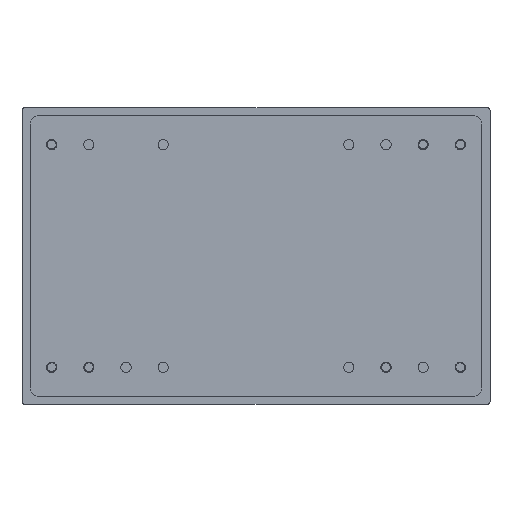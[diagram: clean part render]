
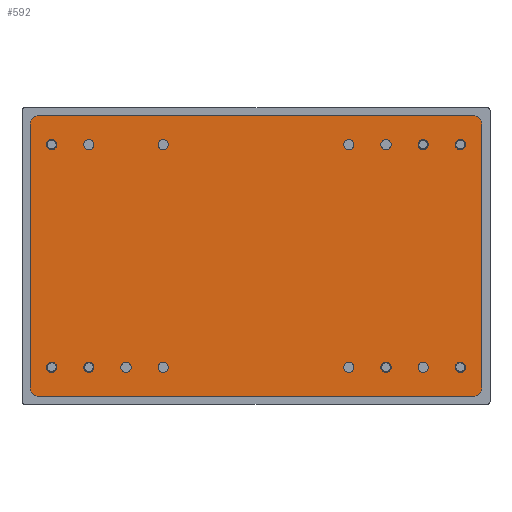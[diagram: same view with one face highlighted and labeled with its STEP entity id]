
A CAD part, top view. The second image highlights one B-rep face of the part: STEP entity #592.
In plain terms, the highlighted planar face has unit normal (0, 0, 1).
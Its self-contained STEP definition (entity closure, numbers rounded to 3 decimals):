
#34=FACE_BOUND('',#113,.T.);
#35=FACE_BOUND('',#114,.T.);
#36=FACE_BOUND('',#115,.T.);
#37=FACE_BOUND('',#116,.T.);
#38=FACE_BOUND('',#117,.T.);
#39=FACE_BOUND('',#118,.T.);
#40=FACE_BOUND('',#119,.T.);
#41=FACE_BOUND('',#120,.T.);
#42=FACE_BOUND('',#121,.T.);
#43=FACE_BOUND('',#122,.T.);
#44=FACE_BOUND('',#123,.T.);
#45=FACE_BOUND('',#124,.T.);
#46=FACE_BOUND('',#125,.T.);
#47=FACE_BOUND('',#126,.T.);
#48=FACE_BOUND('',#127,.T.);
#64=FACE_OUTER_BOUND('',#112,.T.);
#112=EDGE_LOOP('',(#417,#418,#419,#420,#421,#422,#423,#424));
#113=EDGE_LOOP('',(#425));
#114=EDGE_LOOP('',(#426));
#115=EDGE_LOOP('',(#427));
#116=EDGE_LOOP('',(#428));
#117=EDGE_LOOP('',(#429));
#118=EDGE_LOOP('',(#430));
#119=EDGE_LOOP('',(#431));
#120=EDGE_LOOP('',(#432));
#121=EDGE_LOOP('',(#433));
#122=EDGE_LOOP('',(#434));
#123=EDGE_LOOP('',(#435));
#124=EDGE_LOOP('',(#436));
#125=EDGE_LOOP('',(#437));
#126=EDGE_LOOP('',(#438));
#127=EDGE_LOOP('',(#439));
#190=CIRCLE('',#643,0.6);
#191=CIRCLE('',#644,0.6);
#192=CIRCLE('',#645,0.6);
#193=CIRCLE('',#646,0.6);
#194=CIRCLE('',#647,0.35);
#195=CIRCLE('',#648,0.35);
#196=CIRCLE('',#649,0.35);
#197=CIRCLE('',#650,0.35);
#198=CIRCLE('',#651,0.35);
#199=CIRCLE('',#652,0.35);
#200=CIRCLE('',#653,0.35);
#201=CIRCLE('',#654,0.35);
#202=CIRCLE('',#655,0.35);
#203=CIRCLE('',#656,0.35);
#204=CIRCLE('',#657,0.35);
#205=CIRCLE('',#658,0.35);
#206=CIRCLE('',#659,0.35);
#207=CIRCLE('',#660,0.35);
#208=CIRCLE('',#661,0.35);
#239=LINE('',#963,#263);
#240=LINE('',#967,#264);
#241=LINE('',#971,#265);
#242=LINE('',#975,#266);
#263=VECTOR('',#743,29.7);
#264=VECTOR('',#746,18.);
#265=VECTOR('',#749,29.7);
#266=VECTOR('',#752,18.);
#287=VERTEX_POINT('',#961);
#288=VERTEX_POINT('',#962);
#289=VERTEX_POINT('',#964);
#290=VERTEX_POINT('',#966);
#291=VERTEX_POINT('',#968);
#292=VERTEX_POINT('',#970);
#293=VERTEX_POINT('',#972);
#294=VERTEX_POINT('',#974);
#295=VERTEX_POINT('',#977);
#296=VERTEX_POINT('',#979);
#297=VERTEX_POINT('',#981);
#298=VERTEX_POINT('',#983);
#299=VERTEX_POINT('',#985);
#300=VERTEX_POINT('',#987);
#301=VERTEX_POINT('',#989);
#302=VERTEX_POINT('',#991);
#303=VERTEX_POINT('',#993);
#304=VERTEX_POINT('',#995);
#305=VERTEX_POINT('',#997);
#306=VERTEX_POINT('',#999);
#307=VERTEX_POINT('',#1001);
#308=VERTEX_POINT('',#1003);
#309=VERTEX_POINT('',#1005);
#344=EDGE_CURVE('',#287,#288,#239,.T.);
#345=EDGE_CURVE('',#289,#287,#190,.T.);
#346=EDGE_CURVE('',#290,#289,#240,.T.);
#347=EDGE_CURVE('',#291,#290,#191,.T.);
#348=EDGE_CURVE('',#292,#291,#241,.T.);
#349=EDGE_CURVE('',#293,#292,#192,.T.);
#350=EDGE_CURVE('',#294,#293,#242,.T.);
#351=EDGE_CURVE('',#288,#294,#193,.T.);
#352=EDGE_CURVE('',#295,#295,#194,.T.);
#353=EDGE_CURVE('',#296,#296,#195,.T.);
#354=EDGE_CURVE('',#297,#297,#196,.T.);
#355=EDGE_CURVE('',#298,#298,#197,.T.);
#356=EDGE_CURVE('',#299,#299,#198,.T.);
#357=EDGE_CURVE('',#300,#300,#199,.T.);
#358=EDGE_CURVE('',#301,#301,#200,.T.);
#359=EDGE_CURVE('',#302,#302,#201,.T.);
#360=EDGE_CURVE('',#303,#303,#202,.T.);
#361=EDGE_CURVE('',#304,#304,#203,.T.);
#362=EDGE_CURVE('',#305,#305,#204,.T.);
#363=EDGE_CURVE('',#306,#306,#205,.T.);
#364=EDGE_CURVE('',#307,#307,#206,.T.);
#365=EDGE_CURVE('',#308,#308,#207,.T.);
#366=EDGE_CURVE('',#309,#309,#208,.T.);
#417=ORIENTED_EDGE('',*,*,#344,.F.);
#418=ORIENTED_EDGE('',*,*,#345,.F.);
#419=ORIENTED_EDGE('',*,*,#346,.F.);
#420=ORIENTED_EDGE('',*,*,#347,.F.);
#421=ORIENTED_EDGE('',*,*,#348,.F.);
#422=ORIENTED_EDGE('',*,*,#349,.F.);
#423=ORIENTED_EDGE('',*,*,#350,.F.);
#424=ORIENTED_EDGE('',*,*,#351,.F.);
#425=ORIENTED_EDGE('',*,*,#352,.F.);
#426=ORIENTED_EDGE('',*,*,#353,.F.);
#427=ORIENTED_EDGE('',*,*,#354,.F.);
#428=ORIENTED_EDGE('',*,*,#355,.F.);
#429=ORIENTED_EDGE('',*,*,#356,.F.);
#430=ORIENTED_EDGE('',*,*,#357,.F.);
#431=ORIENTED_EDGE('',*,*,#358,.F.);
#432=ORIENTED_EDGE('',*,*,#359,.F.);
#433=ORIENTED_EDGE('',*,*,#360,.F.);
#434=ORIENTED_EDGE('',*,*,#361,.F.);
#435=ORIENTED_EDGE('',*,*,#362,.F.);
#436=ORIENTED_EDGE('',*,*,#363,.F.);
#437=ORIENTED_EDGE('',*,*,#364,.F.);
#438=ORIENTED_EDGE('',*,*,#365,.F.);
#439=ORIENTED_EDGE('',*,*,#366,.F.);
#563=PLANE('',#642);
#592=ADVANCED_FACE('',(#64,#34,#35,#36,#37,#38,#39,#40,#41,#42,#43,#44,
#45,#46,#47,#48),#563,.F.);
#642=AXIS2_PLACEMENT_3D('',#960,#741,#742);
#643=AXIS2_PLACEMENT_3D('',#965,#744,#745);
#644=AXIS2_PLACEMENT_3D('',#969,#747,#748);
#645=AXIS2_PLACEMENT_3D('',#973,#750,#751);
#646=AXIS2_PLACEMENT_3D('',#976,#753,#754);
#647=AXIS2_PLACEMENT_3D('',#978,#755,#756);
#648=AXIS2_PLACEMENT_3D('',#980,#757,#758);
#649=AXIS2_PLACEMENT_3D('',#982,#759,#760);
#650=AXIS2_PLACEMENT_3D('',#984,#761,#762);
#651=AXIS2_PLACEMENT_3D('',#986,#763,#764);
#652=AXIS2_PLACEMENT_3D('',#988,#765,#766);
#653=AXIS2_PLACEMENT_3D('',#990,#767,#768);
#654=AXIS2_PLACEMENT_3D('',#992,#769,#770);
#655=AXIS2_PLACEMENT_3D('',#994,#771,#772);
#656=AXIS2_PLACEMENT_3D('',#996,#773,#774);
#657=AXIS2_PLACEMENT_3D('',#998,#775,#776);
#658=AXIS2_PLACEMENT_3D('',#1000,#777,#778);
#659=AXIS2_PLACEMENT_3D('',#1002,#779,#780);
#660=AXIS2_PLACEMENT_3D('',#1004,#781,#782);
#661=AXIS2_PLACEMENT_3D('',#1006,#783,#784);
#741=DIRECTION('center_axis',(0.,0.,-1.));
#742=DIRECTION('ref_axis',(0.,1.,0.));
#743=DIRECTION('',(-1.,0.,0.));
#744=DIRECTION('center_axis',(0.,0.,-1.));
#745=DIRECTION('ref_axis',(-1.,0.,0.));
#746=DIRECTION('',(0.,-1.,0.));
#747=DIRECTION('center_axis',(0.,0.,-1.));
#748=DIRECTION('ref_axis',(-1.,0.,0.));
#749=DIRECTION('',(1.,0.,0.));
#750=DIRECTION('center_axis',(0.,0.,-1.));
#751=DIRECTION('ref_axis',(-1.,0.,0.));
#752=DIRECTION('',(0.,1.,0.));
#753=DIRECTION('center_axis',(0.,0.,-1.));
#754=DIRECTION('ref_axis',(-1.,0.,0.));
#755=DIRECTION('center_axis',(0.,0.,1.));
#756=DIRECTION('ref_axis',(-1.,0.,0.));
#757=DIRECTION('center_axis',(0.,0.,1.));
#758=DIRECTION('ref_axis',(1.,0.,0.));
#759=DIRECTION('center_axis',(0.,0.,1.));
#760=DIRECTION('ref_axis',(1.,0.,0.));
#761=DIRECTION('center_axis',(0.,0.,1.));
#762=DIRECTION('ref_axis',(1.,0.,0.));
#763=DIRECTION('center_axis',(0.,0.,1.));
#764=DIRECTION('ref_axis',(1.,0.,0.));
#765=DIRECTION('center_axis',(0.,0.,1.));
#766=DIRECTION('ref_axis',(1.,0.,0.));
#767=DIRECTION('center_axis',(0.,0.,1.));
#768=DIRECTION('ref_axis',(1.,0.,0.));
#769=DIRECTION('center_axis',(0.,0.,1.));
#770=DIRECTION('ref_axis',(1.,0.,0.));
#771=DIRECTION('center_axis',(0.,0.,1.));
#772=DIRECTION('ref_axis',(1.,0.,0.));
#773=DIRECTION('center_axis',(0.,0.,1.));
#774=DIRECTION('ref_axis',(1.,0.,0.));
#775=DIRECTION('center_axis',(0.,0.,1.));
#776=DIRECTION('ref_axis',(1.,0.,0.));
#777=DIRECTION('center_axis',(0.,0.,1.));
#778=DIRECTION('ref_axis',(1.,0.,0.));
#779=DIRECTION('center_axis',(0.,0.,1.));
#780=DIRECTION('ref_axis',(1.,0.,0.));
#781=DIRECTION('center_axis',(0.,0.,1.));
#782=DIRECTION('ref_axis',(1.,0.,0.));
#783=DIRECTION('center_axis',(0.,0.,1.));
#784=DIRECTION('ref_axis',(1.,0.,0.));
#960=CARTESIAN_POINT('Origin',(16.,10.15,0.));
#961=CARTESIAN_POINT('',(14.85,-9.6,0.));
#962=CARTESIAN_POINT('',(-14.85,-9.6,0.));
#963=CARTESIAN_POINT('',(0.275,-9.6,0.));
#964=CARTESIAN_POINT('',(15.45,-9.,0.));
#965=CARTESIAN_POINT('Origin',(14.85,-9.,0.));
#966=CARTESIAN_POINT('',(15.45,9.,0.));
#967=CARTESIAN_POINT('',(15.45,0.275,0.));
#968=CARTESIAN_POINT('',(14.85,9.6,0.));
#969=CARTESIAN_POINT('Origin',(14.85,9.,0.));
#970=CARTESIAN_POINT('',(-14.85,9.6,0.));
#971=CARTESIAN_POINT('',(0.275,9.6,0.));
#972=CARTESIAN_POINT('',(-15.45,9.,0.));
#973=CARTESIAN_POINT('Origin',(-14.85,9.,0.));
#974=CARTESIAN_POINT('',(-15.45,-9.,0.));
#975=CARTESIAN_POINT('',(-15.45,0.275,0.));
#976=CARTESIAN_POINT('Origin',(-14.85,-9.,0.));
#977=CARTESIAN_POINT('',(9.24,-7.61,0.));
#978=CARTESIAN_POINT('Origin',(8.89,-7.61,0.));
#979=CARTESIAN_POINT('',(-6.,-7.61,0.));
#980=CARTESIAN_POINT('Origin',(-6.35,-7.61,0.));
#981=CARTESIAN_POINT('',(-6.,7.61,0.));
#982=CARTESIAN_POINT('Origin',(-6.35,7.61,0.));
#983=CARTESIAN_POINT('',(6.7,-7.61,0.));
#984=CARTESIAN_POINT('Origin',(6.35,-7.61,0.));
#985=CARTESIAN_POINT('',(6.7,7.61,0.));
#986=CARTESIAN_POINT('Origin',(6.35,7.61,0.));
#987=CARTESIAN_POINT('',(-8.54,-7.61,0.));
#988=CARTESIAN_POINT('Origin',(-8.89,-7.61,0.));
#989=CARTESIAN_POINT('',(9.24,7.61,0.));
#990=CARTESIAN_POINT('Origin',(8.89,7.61,0.));
#991=CARTESIAN_POINT('',(-11.08,7.61,0.));
#992=CARTESIAN_POINT('Origin',(-11.43,7.61,0.));
#993=CARTESIAN_POINT('',(11.78,7.61,0.));
#994=CARTESIAN_POINT('Origin',(11.43,7.61,0.));
#995=CARTESIAN_POINT('',(11.78,-7.61,0.));
#996=CARTESIAN_POINT('Origin',(11.43,-7.61,0.));
#997=CARTESIAN_POINT('',(-11.08,-7.61,0.));
#998=CARTESIAN_POINT('Origin',(-11.43,-7.61,0.));
#999=CARTESIAN_POINT('',(-13.62,-7.61,0.));
#1000=CARTESIAN_POINT('Origin',(-13.97,-7.61,0.));
#1001=CARTESIAN_POINT('',(14.32,-7.61,0.));
#1002=CARTESIAN_POINT('Origin',(13.97,-7.61,0.));
#1003=CARTESIAN_POINT('',(14.32,7.61,0.));
#1004=CARTESIAN_POINT('Origin',(13.97,7.61,0.));
#1005=CARTESIAN_POINT('',(-13.62,7.61,0.));
#1006=CARTESIAN_POINT('Origin',(-13.97,7.61,0.));
